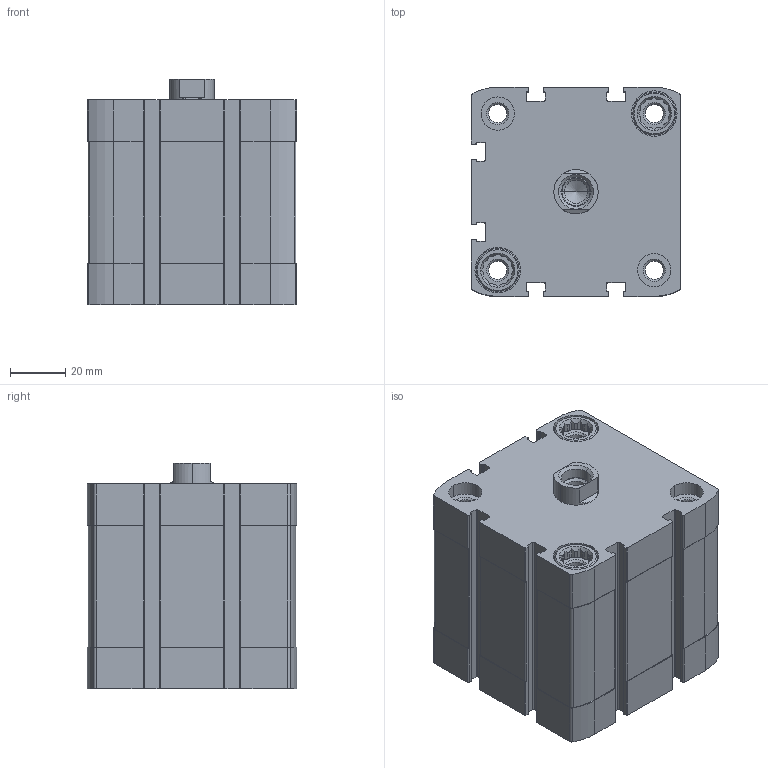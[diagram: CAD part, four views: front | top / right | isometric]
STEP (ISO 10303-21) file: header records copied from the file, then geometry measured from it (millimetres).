
FILE_DESCRIPTION (( 'STEP AP203' ), '1' );
FILE_NAME ('CCN63-25F.STEP', '2017-04-05T15:22:33', ( '' ), ( '' ), 'SwSTEP 2.0', 'SolidWorks 2016', '' );
FILE_SCHEMA (( 'CONFIG_CONTROL_DESIGN' ));
Length unit declared in the file: millimetre
Products named in the file (3): CCN-25----(Z); CCN-25_(KS); CCN63-25F
Assembly tree (2 placements, depth 2):
  CCN63-25F
    CCN-25----(Z)
    CCN-25_(KS)
Bounding box: 75.5 x 75.5 x 81.5 mm (x, y, z)
Volume: 312910.5 mm3; surface area: 75709.7 mm2
Topology: 2 solids, 2 shells, 471 faces, 1274 edges, 837 vertices
Faces by surface type: plane 219, cylinder 210, cone 42
Entity records: 15309 total; most frequent: CARTESIAN_POINT 2879, DIRECTION 2596, ORIENTED_EDGE 2544, EDGE_CURVE 1272, AXIS2_PLACEMENT_3D 946, VERTEX_POINT 837, VECTOR 704, LINE 704
